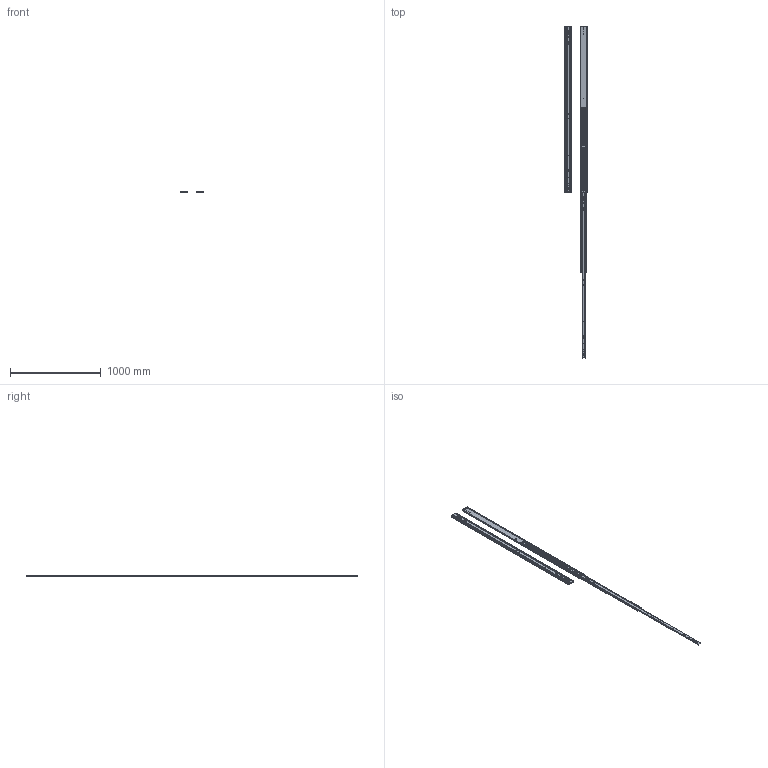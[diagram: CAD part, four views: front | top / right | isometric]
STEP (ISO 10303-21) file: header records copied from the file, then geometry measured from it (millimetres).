
FILE_DESCRIPTION((''),'2;1');
FILE_NAME('ASSEM1_1_2_3_4_ASM','2026-04-08T10:39:19',('T260078'),(''),'CREO PARAMETRIC BY PTC INC, 2025123','CREO PARAMETRIC BY PTC INC, 2025123','');
FILE_SCHEMA(('CONFIG_CONTROL_DESIGN','SHAPE_APPEARANCE_LAYERS_GROUPS'));
Length unit declared in the file: millimetre
Products named in the file (6): 76J01-72_X2_540B_X0_-M; 76J01-72_X2_540B_X0_-I; 76J01-72_X2_540B_X0_-O; 76J01-72_X2_540_X0__ASM; 76J01-72_X2_540B_X0_-_X2_5C5595_ASM; ASSEM1_1_2_3_4_ASM
Assembly tree (8 placements, depth 3):
  ASSEM1_1_2_3_4_ASM
    76J01-72_X2_540_X0__ASM
      76J01-72_X2_540B_X0_-M
      76J01-72_X2_540B_X0_-I
      76J01-72_X2_540B_X0_-O
    76J01-72_X2_540B_X0_-_X2_5C5595_ASM
      76J01-72_X2_540B_X0_-M
      76J01-72_X2_540B_X0_-I
      76J01-72_X2_540B_X0_-O
Bounding box: 245.44 x 3657.6 x 19.3 mm (x, y, z)
Volume: 2273288 mm3; surface area: 2022621 mm2
Topology: 6 solids, 6 shells, 380 faces, 1228 edges, 848 vertices
Faces by surface type: cylinder 212, plane 168
Entity records: 8389 total; most frequent: CARTESIAN_POINT 1334, DIRECTION 1244, ORIENTED_EDGE 1228, EDGE_CURVE 614, AXIS2_PLACEMENT_3D 444, VERTEX_POINT 424, VECTOR 356, LINE 356
